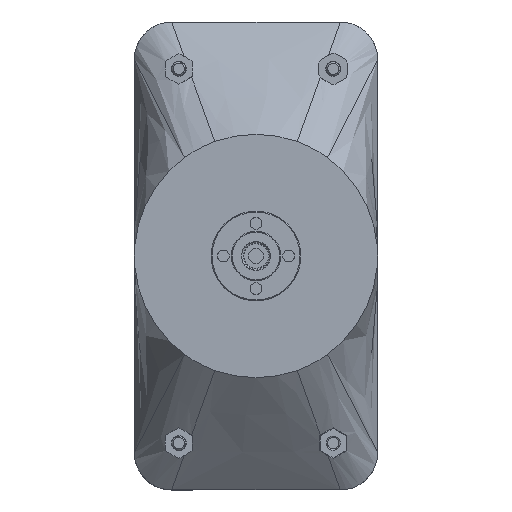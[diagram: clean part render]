
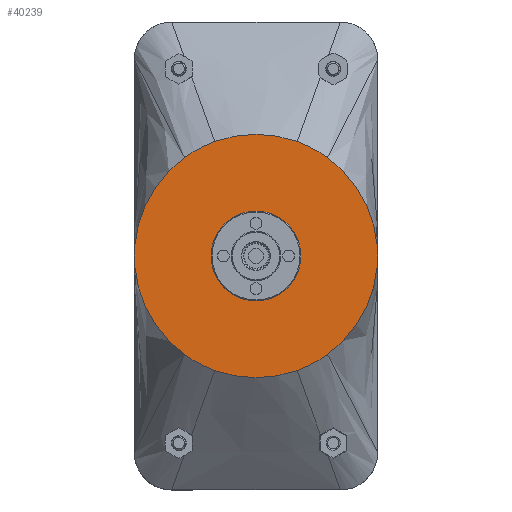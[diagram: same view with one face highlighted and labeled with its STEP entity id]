
A CAD part, front view. The second image highlights one B-rep face of the part: STEP entity #40239.
In plain terms, the highlighted planar face has unit normal (0, -1, 0) as drawn and (0, 0, 1) by its records, which use the part's own axes.
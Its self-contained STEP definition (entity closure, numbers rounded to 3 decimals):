
#1759=FACE_BOUND('',#7991,.T.);
#1760=FACE_BOUND('',#7992,.T.);
#1761=FACE_BOUND('',#7993,.T.);
#1762=FACE_BOUND('',#7994,.T.);
#1763=FACE_BOUND('',#7995,.T.);
#2754=PLANE('',#44324);
#5598=FACE_OUTER_BOUND('',#7990,.T.);
#7990=EDGE_LOOP('',(#36858,#36859,#36860,#36861,#36862,#36863,#36864,#36865));
#7991=EDGE_LOOP('',(#36866));
#7992=EDGE_LOOP('',(#36867));
#7993=EDGE_LOOP('',(#36868));
#7994=EDGE_LOOP('',(#36869));
#7995=EDGE_LOOP('',(#36870));
#16482=CIRCLE('',#44188,2.5);
#16489=CIRCLE('',#44243,26.);
#16496=CIRCLE('',#44255,26.);
#16498=CIRCLE('',#44257,26.);
#16505=CIRCLE('',#44269,26.);
#16511=CIRCLE('',#44280,26.);
#16532=CIRCLE('',#44317,1.6);
#16533=CIRCLE('',#44319,1.6);
#16534=CIRCLE('',#44321,1.6);
#16535=CIRCLE('',#44323,1.6);
#16536=CIRCLE('',#44325,26.);
#16537=CIRCLE('',#44326,26.);
#16538=CIRCLE('',#44327,26.);
#19942=VERTEX_POINT('',#88093);
#20080=VERTEX_POINT('',#88729);
#20081=VERTEX_POINT('',#88731);
#20087=VERTEX_POINT('',#88833);
#20089=VERTEX_POINT('',#88900);
#20093=VERTEX_POINT('',#88952);
#20094=VERTEX_POINT('',#88954);
#20095=VERTEX_POINT('',#89032);
#20096=VERTEX_POINT('',#89034);
#20115=VERTEX_POINT('',#89096);
#20116=VERTEX_POINT('',#89100);
#20117=VERTEX_POINT('',#89104);
#20118=VERTEX_POINT('',#89108);
#25522=EDGE_CURVE('',#19942,#19942,#16482,.T.);
#25694=EDGE_CURVE('',#20080,#20081,#16489,.T.);
#25713=EDGE_CURVE('',#20087,#20080,#16496,.T.);
#25721=EDGE_CURVE('',#20089,#20087,#16498,.T.);
#25732=EDGE_CURVE('',#20093,#20094,#16505,.T.);
#25745=EDGE_CURVE('',#20095,#20096,#16511,.T.);
#25772=EDGE_CURVE('',#20115,#20115,#16532,.T.);
#25774=EDGE_CURVE('',#20116,#20116,#16533,.T.);
#25776=EDGE_CURVE('',#20117,#20117,#16534,.T.);
#25778=EDGE_CURVE('',#20118,#20118,#16535,.T.);
#25780=EDGE_CURVE('',#20094,#20095,#16536,.T.);
#25781=EDGE_CURVE('',#20081,#20093,#16537,.T.);
#25782=EDGE_CURVE('',#20096,#20089,#16538,.T.);
#36858=ORIENTED_EDGE('',*,*,#25780,.F.);
#36859=ORIENTED_EDGE('',*,*,#25732,.F.);
#36860=ORIENTED_EDGE('',*,*,#25781,.F.);
#36861=ORIENTED_EDGE('',*,*,#25694,.F.);
#36862=ORIENTED_EDGE('',*,*,#25713,.F.);
#36863=ORIENTED_EDGE('',*,*,#25721,.F.);
#36864=ORIENTED_EDGE('',*,*,#25782,.F.);
#36865=ORIENTED_EDGE('',*,*,#25745,.F.);
#36866=ORIENTED_EDGE('',*,*,#25522,.T.);
#36867=ORIENTED_EDGE('',*,*,#25772,.T.);
#36868=ORIENTED_EDGE('',*,*,#25774,.T.);
#36869=ORIENTED_EDGE('',*,*,#25776,.T.);
#36870=ORIENTED_EDGE('',*,*,#25778,.T.);
#40239=ADVANCED_FACE('',(#5598,#1759,#1760,#1761,#1762,#1763),#2754,.T.);
#44188=AXIS2_PLACEMENT_3D('',#88094,#53938,#53939);
#44243=AXIS2_PLACEMENT_3D('',#88732,#54158,#54159);
#44255=AXIS2_PLACEMENT_3D('',#88835,#54187,#54188);
#44257=AXIS2_PLACEMENT_3D('',#88902,#54192,#54193);
#44269=AXIS2_PLACEMENT_3D('',#88955,#54218,#54219);
#44280=AXIS2_PLACEMENT_3D('',#89035,#54242,#54243);
#44317=AXIS2_PLACEMENT_3D('',#89097,#54322,#54323);
#44319=AXIS2_PLACEMENT_3D('',#89101,#54327,#54328);
#44321=AXIS2_PLACEMENT_3D('',#89105,#54332,#54333);
#44323=AXIS2_PLACEMENT_3D('',#89109,#54337,#54338);
#44324=AXIS2_PLACEMENT_3D('',#89111,#54340,#54341);
#44325=AXIS2_PLACEMENT_3D('',#89112,#54342,#54343);
#44326=AXIS2_PLACEMENT_3D('',#89113,#54344,#54345);
#44327=AXIS2_PLACEMENT_3D('',#89114,#54346,#54347);
#53938=DIRECTION('center_axis',(0.,0.,-1.));
#53939=DIRECTION('ref_axis',(1.,0.,0.));
#54158=DIRECTION('center_axis',(0.,0.,-1.));
#54159=DIRECTION('ref_axis',(-1.,0.,0.));
#54187=DIRECTION('center_axis',(0.,0.,-1.));
#54188=DIRECTION('ref_axis',(-1.,0.,0.));
#54192=DIRECTION('center_axis',(0.,0.,-1.));
#54193=DIRECTION('ref_axis',(-1.,0.,0.));
#54218=DIRECTION('center_axis',(0.,0.,-1.));
#54219=DIRECTION('ref_axis',(-1.,0.,0.));
#54242=DIRECTION('center_axis',(0.,0.,-1.));
#54243=DIRECTION('ref_axis',(-1.,0.,0.));
#54322=DIRECTION('center_axis',(0.,0.,-1.));
#54323=DIRECTION('ref_axis',(1.,0.,0.));
#54327=DIRECTION('center_axis',(0.,0.,-1.));
#54328=DIRECTION('ref_axis',(1.,0.,0.));
#54332=DIRECTION('center_axis',(0.,0.,-1.));
#54333=DIRECTION('ref_axis',(1.,0.,0.));
#54337=DIRECTION('center_axis',(0.,0.,-1.));
#54338=DIRECTION('ref_axis',(1.,0.,0.));
#54340=DIRECTION('center_axis',(0.,0.,1.));
#54341=DIRECTION('ref_axis',(1.,0.,0.));
#54342=DIRECTION('center_axis',(0.,0.,-1.));
#54343=DIRECTION('ref_axis',(-1.,0.,0.));
#54344=DIRECTION('center_axis',(0.,0.,-1.));
#54345=DIRECTION('ref_axis',(-1.,0.,0.));
#54346=DIRECTION('center_axis',(0.,0.,-1.));
#54347=DIRECTION('ref_axis',(-1.,0.,0.));
#88093=CARTESIAN_POINT('',(-2.5,0.,30.));
#88094=CARTESIAN_POINT('Origin',(0.,0.,30.));
#88729=CARTESIAN_POINT('',(-24.463,8.807,30.));
#88731=CARTESIAN_POINT('',(-21.044,15.27,30.));
#88732=CARTESIAN_POINT('Origin',(0.,0.,30.));
#88833=CARTESIAN_POINT('',(-24.463,-8.807,30.));
#88835=CARTESIAN_POINT('Origin',(0.,0.,30.));
#88900=CARTESIAN_POINT('',(-21.044,-15.27,30.));
#88902=CARTESIAN_POINT('Origin',(0.,0.,30.));
#88952=CARTESIAN_POINT('',(21.044,15.27,30.));
#88954=CARTESIAN_POINT('',(24.463,8.807,30.));
#88955=CARTESIAN_POINT('Origin',(0.,0.,30.));
#89032=CARTESIAN_POINT('',(24.463,-8.807,30.));
#89034=CARTESIAN_POINT('',(21.044,-15.27,30.));
#89035=CARTESIAN_POINT('Origin',(0.,0.,30.));
#89096=CARTESIAN_POINT('',(5.4,0.,30.));
#89097=CARTESIAN_POINT('Origin',(7.,0.,
30.));
#89100=CARTESIAN_POINT('',(-1.6,-7.,30.));
#89101=CARTESIAN_POINT('Origin',(0.,-7.,30.));
#89104=CARTESIAN_POINT('',(-8.6,0.,30.));
#89105=CARTESIAN_POINT('Origin',(-7.,0.,30.));
#89108=CARTESIAN_POINT('',(-1.6,7.,30.));
#89109=CARTESIAN_POINT('Origin',(0.,7.,30.));
#89111=CARTESIAN_POINT('Origin',(0.,0.,
30.));
#89112=CARTESIAN_POINT('Origin',(0.,0.,30.));
#89113=CARTESIAN_POINT('Origin',(0.,0.,30.));
#89114=CARTESIAN_POINT('Origin',(0.,0.,30.));
